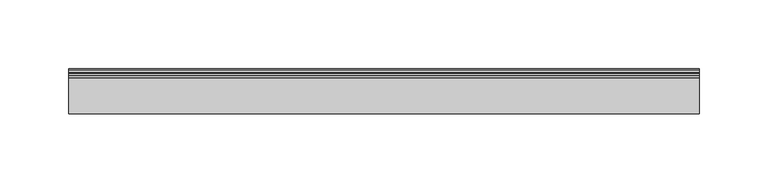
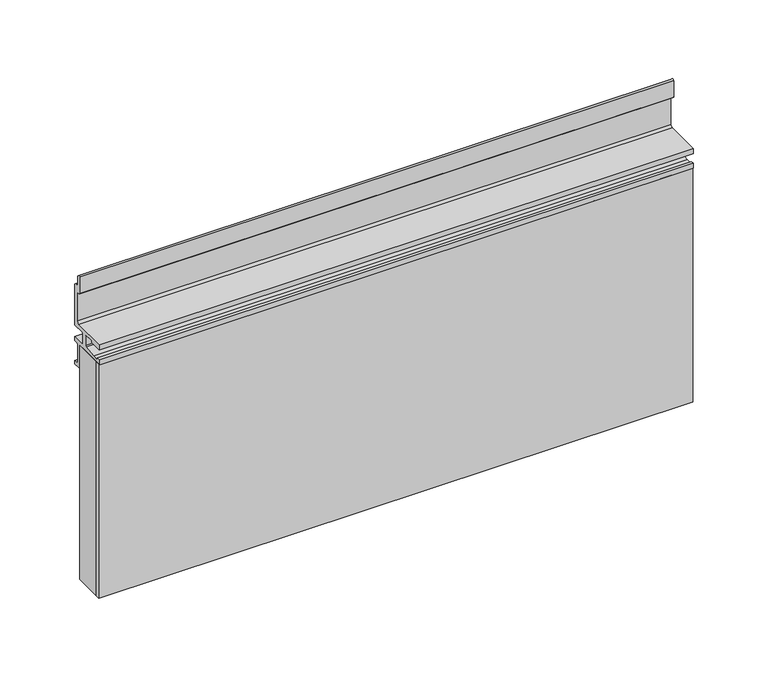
"""IFC4 building model written with IfcOpenShell, lengths in millimetres: furniture geometry, Geiger_GeigerOneCasegoods_WallTileAcceptsShelfandTil : 18Wx 1.25Dx 7.5H."""

from ifc_helpers import new_model, si_unit, point, frame, frame_2d, origin, origin_with_axes, place, context, project, spatial, polyline, circle_curve, trimmed, segment, composite_curve, outline, extrude, faceted_brep, source, transform, mapped, element, save


def furniture_ed4ef10b(model_context):
    return source(origin(), model_context, "Body", "SolidModel", [
        faceted_brep([(0.0, -27.8892, 190.5), (0.0, -6.4008, 190.5), (0.0, -6.4008, 0.0), (0.0, -27.8892, 0.0), (45.5, -19.9008, 145.0), (45.5, -27.8892, 145.0), (45.5, -27.8892, 45.5), (45.5, -19.9008, 45.5), (62.0014, -8.4074, 128.4986), (62.0014, -19.9008, 128.4986), (62.0014, -19.9008, 62.0014), (62.0014, -8.4074, 62.0014), (64.6938, -9.1948, 125.8062), (64.6938, -8.4074, 125.8062), (64.6938, -8.4074, 64.6938), (64.6938, -9.1948, 64.6938), (66.294, -8.4074, 124.206), (66.294, -9.1948, 124.206), (66.294, -9.1948, 66.294), (66.294, -8.4074, 66.294), (67.4116, -9.1948, 123.0884), (67.4116, -8.4074, 123.0884), (67.4116, -8.4074, 67.4116), (67.4116, -9.1948, 67.4116), (69.0118, -8.4074, 121.4882), (69.0118, -9.1948, 121.4882), (69.0118, -9.1948, 69.0118), (69.0118, -8.4074, 69.0118), (70.0024, -6.4008, 120.4976), (70.0024, -8.4074, 120.4976), (70.0024, -8.4074, 70.0024), (70.0024, -6.4008, 70.0024), (43.0022, -8.4074, 147.4978), (43.0022, -6.4008, 147.4978), (43.0022, -6.4008, 43.0022), (43.0022, -8.4074, 43.0022), (43.9928, -9.1948, 146.5072), (43.9928, -8.4074, 146.5072), (43.9928, -8.4074, 43.9928), (43.9928, -9.1948, 43.9928), (45.593, -8.4074, 144.907), (45.593, -9.1948, 144.907), (45.593, -9.1948, 45.593), (45.593, -8.4074, 45.593), (46.7106, -9.1948, 143.7894), (46.7106, -8.4074, 143.7894), (46.7106, -8.4074, 46.7106), (46.7106, -9.1948, 46.7106), (48.3108, -8.4074, 142.1892), (48.3108, -9.1948, 142.1892), (48.3108, -9.1948, 48.3108), (48.3108, -8.4074, 48.3108), (51.0032, -13.4112, 139.4968), (51.0032, -8.4074, 139.4968), (51.0032, -8.4074, 51.0032), (51.0032, -13.4112, 51.0032), (31.8262, -16.4084, 158.6738), (34.8234, -13.4112, 155.6766), (34.8234, -13.4112, 34.8234), (31.8262, -16.4084, 31.8262), (8.001, -10.5664, 182.499), (13.8176, -16.4084, 176.6824), (13.8176, -16.4084, 13.8176), (8.001, -10.5664, 8.001), (8.001, -6.4008, 182.499), (8.001, -6.4008, 8.001), (457.2, -6.4008, 0.0), (457.2, -27.8892, 0.0), (411.7, -27.8892, 45.5), (411.7, -19.9008, 45.5), (395.1986, -19.9008, 62.0014), (395.1986, -8.4074, 62.0014), (392.5062, -8.4074, 64.6938), (392.5062, -9.1948, 64.6938), (390.906, -9.1948, 66.294), (390.906, -8.4074, 66.294), (389.7884, -8.4074, 67.4116), (389.7884, -9.1948, 67.4116), (388.1882, -9.1948, 69.0118), (388.1882, -8.4074, 69.0118), (387.1976, -8.4074, 70.0024), (387.1976, -6.4008, 70.0024), (414.1978, -6.4008, 43.0022), (414.1978, -8.4074, 43.0022), (413.2072, -8.4074, 43.9928), (413.2072, -9.1948, 43.9928), (411.607, -9.1948, 45.593), (411.607, -8.4074, 45.593), (410.4894, -8.4074, 46.7106), (410.4894, -9.1948, 46.7106), (408.8892, -9.1948, 48.3108), (408.8892, -8.4074, 48.3108), (406.1968, -8.4074, 51.0032), (406.1968, -13.4112, 51.0032), (422.3766, -13.4112, 34.8234), (425.3738, -16.4084, 31.8262), (443.3824, -16.4084, 13.8176), (449.199, -10.5664, 8.001), (449.199, -6.4008, 8.001), (457.2, -6.4008, 190.5), (457.2, -27.8892, 190.5), (411.7, -27.8892, 145.0), (411.7, -19.9008, 145.0), (395.1986, -19.9008, 128.4986), (395.1986, -8.4074, 128.4986), (392.5062, -8.4074, 125.8062), (392.5062, -9.1948, 125.8062), (390.906, -9.1948, 124.206), (390.906, -8.4074, 124.206), (389.7884, -8.4074, 123.0884), (389.7884, -9.1948, 123.0884), (388.1882, -9.1948, 121.4882), (388.1882, -8.4074, 121.4882), (387.1976, -8.4074, 120.4976), (387.1976, -6.4008, 120.4976), (414.1978, -6.4008, 147.4978), (414.1978, -8.4074, 147.4978), (413.2072, -8.4074, 146.5072), (413.2072, -9.1948, 146.5072), (411.607, -9.1948, 144.907), (411.607, -8.4074, 144.907), (410.4894, -8.4074, 143.7894), (410.4894, -9.1948, 143.7894), (408.8892, -9.1948, 142.1892), (408.8892, -8.4074, 142.1892), (406.1968, -8.4074, 139.4968), (406.1968, -13.4112, 139.4968), (422.3766, -13.4112, 155.6766), (425.3738, -16.4084, 158.6738), (443.3824, -16.4084, 176.6824), (449.199, -10.5664, 182.499), (449.199, -6.4008, 182.499)], [[[0, 1, 2, 3]], [[4, 5, 6, 7]], [[8, 9, 10, 11]], [[12, 13, 14, 15]], [[16, 17, 18, 19]], [[20, 21, 22, 23]], [[24, 25, 26, 27]], [[28, 29, 30, 31]], [[32, 33, 34, 35]], [[36, 37, 38, 39]], [[40, 41, 42, 43]], [[44, 45, 46, 47]], [[48, 49, 50, 51]], [[52, 53, 54, 55]], [[56, 57, 58, 59]], [[60, 61, 62, 63]], [[64, 60, 63, 65]], [[3, 2, 66, 67]], [[7, 6, 68, 69]], [[11, 10, 70, 71]], [[15, 14, 72, 73]], [[19, 18, 74, 75]], [[23, 22, 76, 77]], [[27, 26, 78, 79]], [[31, 30, 80, 81]], [[35, 34, 82, 83]], [[39, 38, 84, 85]], [[43, 42, 86, 87]], [[47, 46, 88, 89]], [[51, 50, 90, 91]], [[55, 54, 92, 93]], [[59, 58, 94, 95]], [[63, 62, 96, 97]], [[65, 63, 97, 98]], [[67, 66, 99, 100]], [[69, 68, 101, 102]], [[71, 70, 103, 104]], [[73, 72, 105, 106]], [[75, 74, 107, 108]], [[77, 76, 109, 110]], [[79, 78, 111, 112]], [[81, 80, 113, 114]], [[83, 82, 115, 116]], [[85, 84, 117, 118]], [[87, 86, 119, 120]], [[89, 88, 121, 122]], [[91, 90, 123, 124]], [[93, 92, 125, 126]], [[95, 94, 127, 128]], [[97, 96, 129, 130]], [[98, 97, 130, 131]], [[100, 99, 1, 0]], [[3, 67, 100, 0], [5, 101, 68, 6]], [[102, 101, 5, 4]], [[7, 69, 102, 4], [9, 103, 70, 10]], [[104, 103, 9, 8]], [[11, 71, 104, 8], [13, 105, 72, 14]], [[106, 105, 13, 12]], [[15, 73, 106, 12], [17, 107, 74, 18]], [[108, 107, 17, 16]], [[19, 75, 108, 16], [21, 109, 76, 22]], [[110, 109, 21, 20]], [[23, 77, 110, 20], [25, 111, 78, 26]], [[112, 111, 25, 24]], [[27, 79, 112, 24], [29, 113, 80, 30]], [[114, 113, 29, 28]], [[33, 115, 82, 34], [31, 81, 114, 28]], [[116, 115, 33, 32]], [[35, 83, 116, 32], [37, 117, 84, 38]], [[118, 117, 37, 36]], [[39, 85, 118, 36], [41, 119, 86, 42]], [[120, 119, 41, 40]], [[43, 87, 120, 40], [45, 121, 88, 46]], [[122, 121, 45, 44]], [[47, 89, 122, 44], [49, 123, 90, 50]], [[124, 123, 49, 48]], [[51, 91, 124, 48], [53, 125, 92, 54]], [[126, 125, 53, 52]], [[57, 127, 94, 58], [55, 93, 126, 52]], [[128, 127, 57, 56]], [[61, 129, 96, 62], [59, 95, 128, 56]], [[130, 129, 61, 60]], [[131, 130, 60, 64]], [[1, 99, 66, 2], [65, 98, 131, 64]]]),
        extrude(outline(composite_curve([segment(polyline([(-3.5052, 46.3366), (-2.6924, 45.5238), (-0.8128, 45.5238), (0.0, 44.7364), (0.0, 31.3252)]), True, "CONTINUOUS"), segment(trimmed(circle_curve(frame_2d((-0.8034421, 31.3345579)), 0.8034966), [point((0.0, 31.3252))], [point((-1.3716, 30.7664))], False, "CARTESIAN"), True, "CONTINUOUS"), segment(polyline([(-1.3716, 30.7664), (-2.8956, 32.2904), (-2.8956, 39.2246), (-3.7084, 40.012), (-5.6134, 40.012), (-6.4008, 40.8248), (-6.4008, 72.524), (-5.1054, 72.524), (-3.5052, 70.9238), (-3.5052, 46.3366)]), True, "CONTINUOUS")], self_intersect=False)), frame((331.2, 0.0, 0.0), z_axis=(1.0, 0.0, 0.0), x_axis=(0.0, 1.0, 0.0)), (0.0, 0.0, 1.0), 76.0),
        extrude(outline(composite_curve([segment(polyline([(-2.8956, 32.2904), (-2.8956, 39.2246), (-3.7084, 40.012), (-5.6134, 40.012), (-6.4008, 40.8248), (-6.4008, 72.524), (-5.1054, 72.524), (-3.5052, 70.9238), (-3.5052, 46.3366), (-2.6924, 45.5238), (-0.8128, 45.5238), (0.0, 44.7364), (0.0, 31.3252)]), True, "CONTINUOUS"), segment(trimmed(circle_curve(frame_2d((-0.8034421, 31.3345579)), 0.8034966), [point((0.0, 31.3252))], [point((-1.3716, 30.7664))], False, "CARTESIAN"), True, "CONTINUOUS"), segment(polyline([(-1.3716, 30.7664), (-2.8956, 32.2904)]), True, "CONTINUOUS")], self_intersect=False)), frame((50.0, 0.0, 0.0), z_axis=(1.0, 0.0, 0.0), x_axis=(0.0, 1.0, 0.0)), (0.0, 0.0, 1.0), 76.0),
        extrude(outline(polyline([(457.2, -27.8892), (457.2, -31.9008), (0.0, -31.9008), (0.0, -27.8892), (457.2, -27.8892)])), origin_with_axes(), (0.0, 0.0, 1.0), 190.5),
        extrude(outline(composite_curve([segment(polyline([(-3.506, 38.2336), (-3.506, 31.2994), (-2.6932, 30.512), (-0.7882, 30.512), (-0.0008, 29.6992), (-0.0008, -2.0), (-1.2962, -2.0), (-2.8964, -0.3998), (-2.8964, 24.1874), (-3.7092, 25.0002), (-5.5888, 25.0002), (-6.4016, 25.7876), (-6.4016, 39.1824128)]), True, "CONTINUOUS"), segment(trimmed(circle_curve(frame_2d((-5.5952144, 39.1824128)), 0.8063856), [point((-6.4016, 39.1824128))], [point((-5.0250136, 39.7526136))], False, "CARTESIAN"), True, "CONTINUOUS"), segment(polyline([(-5.0250136, 39.7526136), (-3.506, 38.2336)]), True, "CONTINUOUS")], self_intersect=False)), frame((12.5, 0.0, 0.0), z_axis=(1.0, 0.0, 0.0), x_axis=(0.0, 1.0, 0.0)), (0.0, 0.0, 1.0), 432.2),
        extrude(outline(composite_curve([segment(polyline([(-4.4958, 206.502), (-2.8956, 208.1022), (-2.8956, 231.0892), (-3.7084, 231.902), (-5.6134, 231.902), (-6.4008, 232.6894), (-6.4008, 246.0987124)]), True, "CONTINUOUS"), segment(trimmed(circle_curve(frame_2d((-5.6004203, 246.0987124)), 0.8003797), [point((-6.4008, 246.0987124))], [point((-5.0344663, 246.6646663))], False, "CARTESIAN"), True, "CONTINUOUS"), segment(polyline([(-5.0344663, 246.6646663), (-3.5052, 245.1354), (-3.5052, 238.2012), (-2.6924, 237.3884), (-0.8128, 237.3884), (0.0, 236.601), (0.0, 203.3016), (-9.6012, 203.3016), (-10.3886, 202.4888), (-10.3886, 194.4878), (-9.6012, 193.7004), (0.0, 193.7004), (0.0, 190.5), (-2.6924, 190.5), (-3.5052, 189.7126), (-3.5052, 175.2092), (-2.6924, 174.3964), (0.0, 174.3964), (0.0, 171.5008), (-5.6134, 171.5008), (-6.4008, 172.2882), (-6.4008, 190.5), (-32.4008, 190.5), (-32.4008, 194.4878), (-29.8958, 194.4878), (-29.8958, 192.8876), (-24.892, 192.8876), (-14.8082, 194.3608), (-14.4018, 195.072), (-14.4018, 203.3016), (-15.1892, 204.089), (-22.4028, 204.089), (-22.4028, 202.4888), (-32.4008, 202.4888), (-32.4008, 206.502), (-4.4958, 206.502)]), True, "CONTINUOUS")], self_intersect=False)), frame((0.0, 0.0, 0.0), z_axis=(1.0, 0.0, 0.0), x_axis=(0.0, 1.0, 0.0)), (0.0, 0.0, 1.0), 457.2),
    ])


if __name__ == "__main__":
    model = new_model("IFC4")
    model_context = context("Model", 3, world=origin())
    ifc_project = project(units=[si_unit("LENGTHUNIT", "METRE", prefix="MILLI")], contexts=[model_context])
    site = spatial("IfcSite", under=ifc_project)
    building = spatial("IfcBuilding", under=site)
    placement = place(None, origin())
    furniture_shape = furniture_ed4ef10b(model_context)
    element("IfcFurniture", 1, ObjectType="Geiger_GeigerOneCasegoods_WallTileAcceptsShelfandTil : 18Wx 1.25Dx 7.5H", at=placement, inside=building, context=model_context, shape_type="MappedRepresentation", body=[
        mapped(furniture_shape, transform((0.0, 0.0, 0.0), x_axis=(1.0, 0.0, 0.0), y_axis=(0.0, 1.0, 0.0), z_axis=(0.0, 0.0, 1.0))),
    ])
    save(model, "model.ifc")
